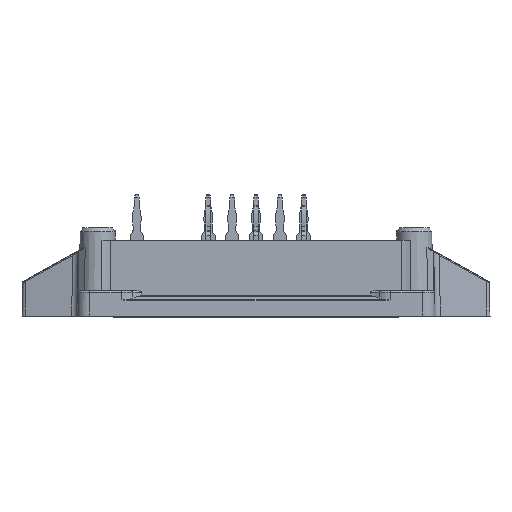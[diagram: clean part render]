
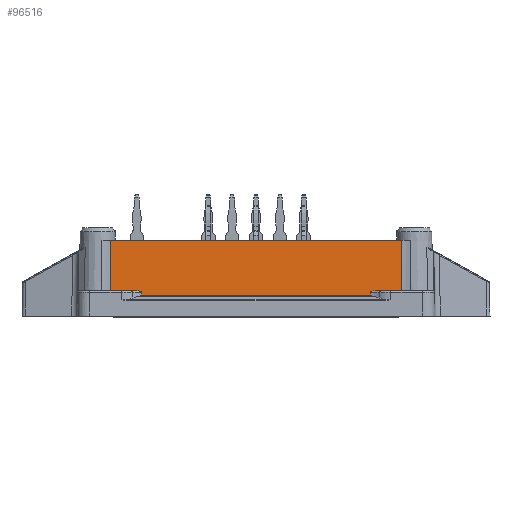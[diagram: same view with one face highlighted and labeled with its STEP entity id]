
A CAD part, front view. The second image highlights one B-rep face of the part: STEP entity #96516.
In plain terms, the highlighted planar face has unit normal (0, -1, 0.018).
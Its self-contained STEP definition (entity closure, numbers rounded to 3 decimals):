
#1743=PLANE('',#101601);
#6881=LINE('',#129973,#13669);
#7637=LINE('',#133850,#14425);
#7638=LINE('',#133866,#14426);
#7639=LINE('',#133877,#14427);
#13669=VECTOR('',#108412,1000.);
#14425=VECTOR('',#110816,1000.);
#14426=VECTOR('',#110817,1000.);
#14427=VECTOR('',#110818,1000.);
#22373=ORIENTED_EDGE('',*,*,#42832,.F.);
#22374=ORIENTED_EDGE('',*,*,#42833,.T.);
#22375=ORIENTED_EDGE('',*,*,#42834,.F.);
#22376=ORIENTED_EDGE('',*,*,#42835,.T.);
#22377=ORIENTED_EDGE('',*,*,#42836,.T.);
#22378=ORIENTED_EDGE('',*,*,#42837,.T.);
#22379=ORIENTED_EDGE('',*,*,#41217,.F.);
#22380=ORIENTED_EDGE('',*,*,#42838,.T.);
#22381=ORIENTED_EDGE('',*,*,#42839,.F.);
#22382=ORIENTED_EDGE('',*,*,#42840,.T.);
#41217=EDGE_CURVE('',#51489,#51490,#6881,.T.);
#42832=EDGE_CURVE('',#53023,#53024,#57591,.T.);
#42833=EDGE_CURVE('',#53023,#53025,#7637,.T.);
#42834=EDGE_CURVE('',#53026,#53025,#57592,.T.);
#42835=EDGE_CURVE('',#53026,#53027,#57593,.T.);
#42836=EDGE_CURVE('',#53027,#53028,#7638,.T.);
#42837=EDGE_CURVE('',#53028,#51490,#57594,.T.);
#42838=EDGE_CURVE('',#51489,#53029,#57595,.T.);
#42839=EDGE_CURVE('',#53030,#53029,#7639,.T.);
#42840=EDGE_CURVE('',#53030,#53024,#57596,.T.);
#51489=VERTEX_POINT('',#129972);
#51490=VERTEX_POINT('',#129974);
#53023=VERTEX_POINT('',#133848);
#53024=VERTEX_POINT('',#133849);
#53025=VERTEX_POINT('',#133851);
#53026=VERTEX_POINT('',#133856);
#53027=VERTEX_POINT('',#133865);
#53028=VERTEX_POINT('',#133867);
#53029=VERTEX_POINT('',#133876);
#53030=VERTEX_POINT('',#133878);
#57591=B_SPLINE_CURVE_WITH_KNOTS('',3,(#133844,#133845,#133846,#133847),
 .UNSPECIFIED.,.F.,.F.,(4,4),(0.001,0.001),
 .UNSPECIFIED.);
#57592=B_SPLINE_CURVE_WITH_KNOTS('',3,(#133852,#133853,#133854,#133855),
 .UNSPECIFIED.,.F.,.F.,(4,4),(0.,0.001),
 .UNSPECIFIED.);
#57593=B_SPLINE_CURVE_WITH_KNOTS('',3,(#133857,#133858,#133859,#133860,
#133861,#133862,#133863,#133864),.UNSPECIFIED.,.F.,.F.,(4,1,1,1,1,4),(0.,
0.,0.,0.,0.001,
0.001),.UNSPECIFIED.);
#57594=B_SPLINE_CURVE_WITH_KNOTS('',3,(#133868,#133869,#133870,#133871),
 .UNSPECIFIED.,.F.,.F.,(4,4),(0.,0.007),.UNSPECIFIED.);
#57595=B_SPLINE_CURVE_WITH_KNOTS('',3,(#133872,#133873,#133874,#133875),
 .UNSPECIFIED.,.F.,.F.,(4,4),(0.,0.007),
 .UNSPECIFIED.);
#57596=B_SPLINE_CURVE_WITH_KNOTS('',3,(#133879,#133880,#133881,#133882,
#133883,#133884,#133885),.UNSPECIFIED.,.F.,.F.,(4,1,1,1,4),(0.,0.,
0.001,0.001,0.001),
 .UNSPECIFIED.);
#58020=EDGE_LOOP('',(#22373,#22374,#22375,#22376,#22377,#22378,#22379,#22380,
#22381,#22382));
#62430=FACE_BOUND('',#58020,.T.);
#96516=ADVANCED_FACE('',(#62430),#1743,.T.);
#101601=AXIS2_PLACEMENT_3D('',#133843,#110814,#110815);
#108412=DIRECTION('',(1.,0.,0.));
#110814=DIRECTION('',(0.,-1.,0.017));
#110815=DIRECTION('',(0.,-0.017,-1.));
#110816=DIRECTION('',(1.,0.,0.));
#110817=DIRECTION('',(1.,0.,0.));
#110818=DIRECTION('',(-1.,0.,0.));
#129972=CARTESIAN_POINT('',(-19.525,-27.653,10.2));
#129973=CARTESIAN_POINT('',(-26.5,-27.653,10.2));
#129974=CARTESIAN_POINT('',(19.525,-27.653,10.2));
#133843=CARTESIAN_POINT('',(-26.5,-27.78,2.9));
#133844=CARTESIAN_POINT('',(-15.378,-27.781,2.822));
#133845=CARTESIAN_POINT('',(-15.379,-27.779,2.949));
#133846=CARTESIAN_POINT('',(-15.379,-27.777,3.076));
#133847=CARTESIAN_POINT('',(-15.379,-27.775,3.203));
#133848=CARTESIAN_POINT('',(-15.378,-27.781,2.822));
#133849=CARTESIAN_POINT('',(-15.379,-27.775,3.203));
#133850=CARTESIAN_POINT('',(-26.5,-27.781,2.822));
#133851=CARTESIAN_POINT('',(15.378,-27.781,2.822));
#133852=CARTESIAN_POINT('',(15.379,-27.775,3.203));
#133853=CARTESIAN_POINT('',(15.379,-27.777,3.076));
#133854=CARTESIAN_POINT('',(15.379,-27.779,2.949));
#133855=CARTESIAN_POINT('',(15.378,-27.781,2.822));
#133856=CARTESIAN_POINT('',(15.379,-27.775,3.203));
#133857=CARTESIAN_POINT('',(15.379,-27.775,3.203));
#133858=CARTESIAN_POINT('',(15.379,-27.774,3.235));
#133859=CARTESIAN_POINT('',(15.441,-27.773,3.274));
#133860=CARTESIAN_POINT('',(15.55,-27.773,3.32));
#133861=CARTESIAN_POINT('',(15.702,-27.772,3.361));
#133862=CARTESIAN_POINT('',(15.882,-27.771,3.392));
#133863=CARTESIAN_POINT('',(16.005,-27.771,3.4));
#133864=CARTESIAN_POINT('',(16.067,-27.771,3.4));
#133865=CARTESIAN_POINT('',(16.067,-27.771,3.4));
#133866=CARTESIAN_POINT('',(-26.5,-27.771,3.4));
#133867=CARTESIAN_POINT('',(19.511,-27.771,3.4));
#133868=CARTESIAN_POINT('',(19.511,-27.771,3.4));
#133869=CARTESIAN_POINT('',(19.516,-27.732,5.667));
#133870=CARTESIAN_POINT('',(19.521,-27.692,7.933));
#133871=CARTESIAN_POINT('',(19.525,-27.653,10.2));
#133872=CARTESIAN_POINT('',(-19.525,-27.653,10.2));
#133873=CARTESIAN_POINT('',(-19.521,-27.692,7.933));
#133874=CARTESIAN_POINT('',(-19.516,-27.732,5.667));
#133875=CARTESIAN_POINT('',(-19.511,-27.771,3.4));
#133876=CARTESIAN_POINT('',(-19.511,-27.771,3.4));
#133877=CARTESIAN_POINT('',(-26.5,-27.771,3.4));
#133878=CARTESIAN_POINT('',(-16.067,-27.771,3.4));
#133879=CARTESIAN_POINT('',(-16.067,-27.771,3.4));
#133880=CARTESIAN_POINT('',(-15.944,-27.771,3.4));
#133881=CARTESIAN_POINT('',(-15.762,-27.772,3.377));
#133882=CARTESIAN_POINT('',(-15.549,-27.773,3.32));
#133883=CARTESIAN_POINT('',(-15.44,-27.773,3.273));
#133884=CARTESIAN_POINT('',(-15.379,-27.774,3.235));
#133885=CARTESIAN_POINT('',(-15.379,-27.775,3.203));
